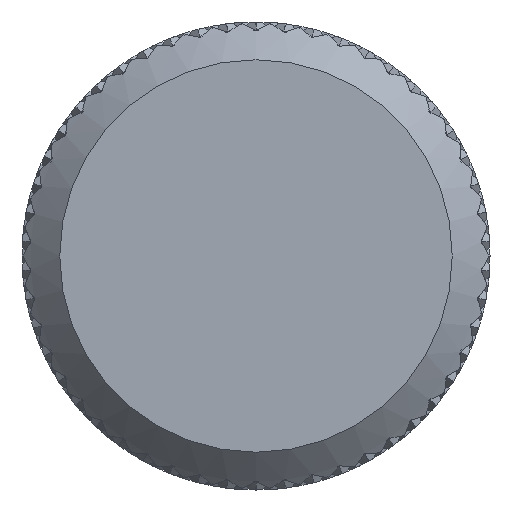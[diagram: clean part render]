
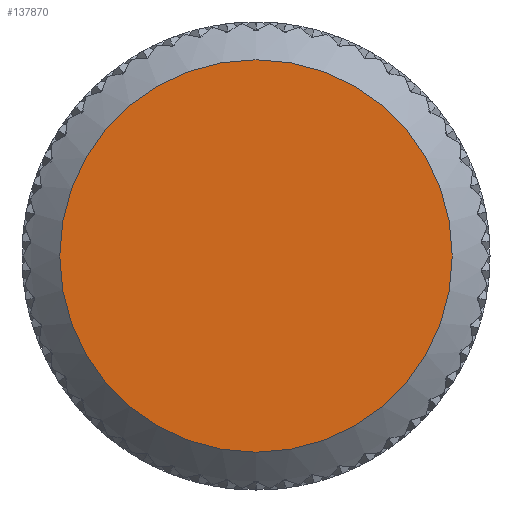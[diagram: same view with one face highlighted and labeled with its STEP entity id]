
A CAD part, front view. The second image highlights one B-rep face of the part: STEP entity #137870.
In plain terms, the highlighted planar face has unit normal (0, -1, 0).
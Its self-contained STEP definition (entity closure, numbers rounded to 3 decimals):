
#29657=PLANE('',#140161);
#42125=FACE_OUTER_BOUND('',#52634,.T.);
#52634=EDGE_LOOP('',(#127033));
#52792=CIRCLE('',#138095,26.);
#53198=VERTEX_POINT('',#146771);
#63959=EDGE_CURVE('',#53198,#53198,#52792,.T.);
#127033=ORIENTED_EDGE('',*,*,#63959,.T.);
#137870=ADVANCED_FACE('',(#42125),#29657,.F.);
#138095=AXIS2_PLACEMENT_3D('',#146773,#140447,#140448);
#140161=AXIS2_PLACEMENT_3D('',#392264,#144581,#144582);
#140447=DIRECTION('center_axis',(0.,-1.,0.));
#140448=DIRECTION('ref_axis',(0.,0.,1.));
#144581=DIRECTION('center_axis',(0.,1.,0.));
#144582=DIRECTION('ref_axis',(0.,0.,1.));
#146771=CARTESIAN_POINT('',(0.,0.,
-26.));
#146773=CARTESIAN_POINT('Origin',(0.,0.,0.));
#392264=CARTESIAN_POINT('Origin',(0.,0.,0.));
